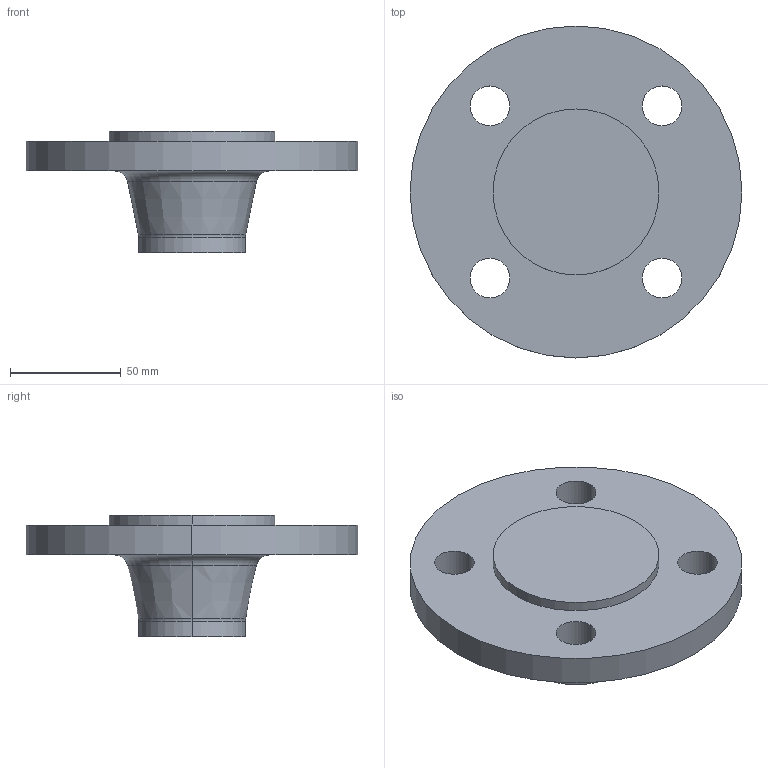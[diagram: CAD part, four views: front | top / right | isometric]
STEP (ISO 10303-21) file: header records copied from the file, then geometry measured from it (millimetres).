
FILE_DESCRIPTION (( 'STEP AP214' ), '1' );
FILE_NAME ('PN40 DN40 Type 21(ii) - Type E Face.STEP', '2018-12-30T01:21:59', ( '' ), ( '' ), 'SwSTEP 2.0', 'SolidWorks 2019', '' );
FILE_SCHEMA (( 'AUTOMOTIVE_DESIGN' ));
Length unit declared in the file: millimetre
Products named in the file (1): PN40 DN40 Type 21(ii) - Type E Face
Bounding box: 150 x 150 x 55 mm (x, y, z)
Volume: 327764.7 mm3; surface area: 48745.5 mm2
Topology: 1 solids, 1 shells, 24 faces, 54 edges, 34 vertices
Faces by surface type: cylinder 14, torus 4, plane 4, cone 2
Entity records: 738 total; most frequent: DIRECTION 142, CARTESIAN_POINT 113, ORIENTED_EDGE 108, AXIS2_PLACEMENT_3D 63, EDGE_CURVE 54, CIRCLE 38, VERTEX_POINT 34, EDGE_LOOP 34
